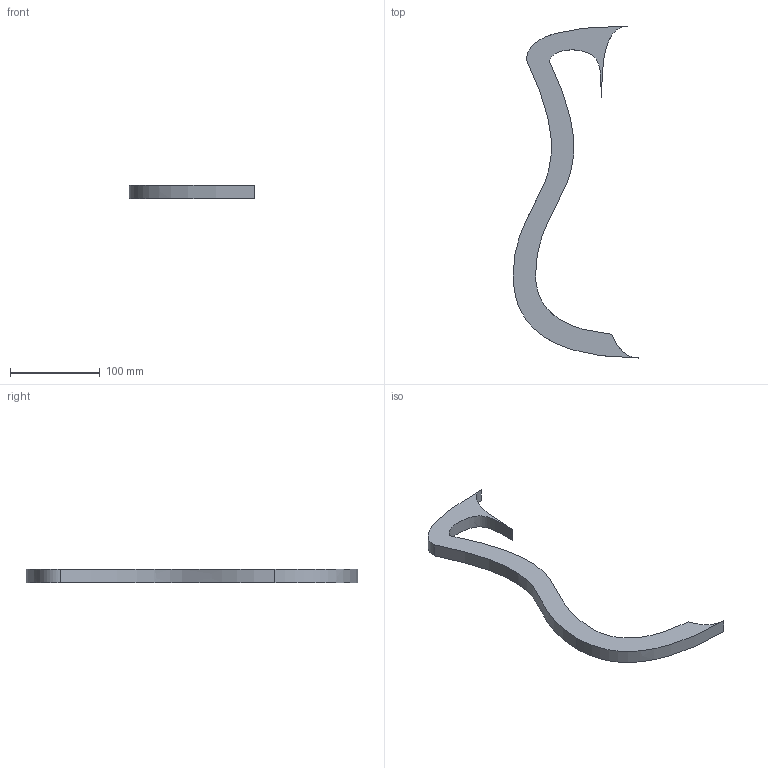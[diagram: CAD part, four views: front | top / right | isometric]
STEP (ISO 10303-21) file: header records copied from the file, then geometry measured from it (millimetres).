
FILE_DESCRIPTION(('FreeCAD Model'),'2;1');
FILE_NAME('Open CASCADE Shape Model','2024-03-17T22:26:05',('Author'),( ''),'Open CASCADE STEP processor 7.6','FreeCAD','Unknown');
FILE_SCHEMA(('AUTOMOTIVE_DESIGN { 1 0 10303 214 1 1 1 1 }'));
Length unit declared in the file: millimetre
Products named in the file (1): ClearRim_CNC
Bounding box: 140 x 370 x 15 mm (x, y, z)
Volume: 182521.6 mm3; surface area: 42047.6 mm2
Topology: 1 solids, 1 shells, 16 faces, 32 edges, 23 vertices
Faces by surface type: extrusion 8, plane 8
Entity records: 895 total; most frequent: CARTESIAN_POINT 236, DIRECTION 95, ORIENTED_EDGE 64, PCURVE 64, DEFINITIONAL_REPRESENTATION 64, VECTOR 57, LINE 49, B_SPLINE_CURVE_WITH_KNOTS 40
